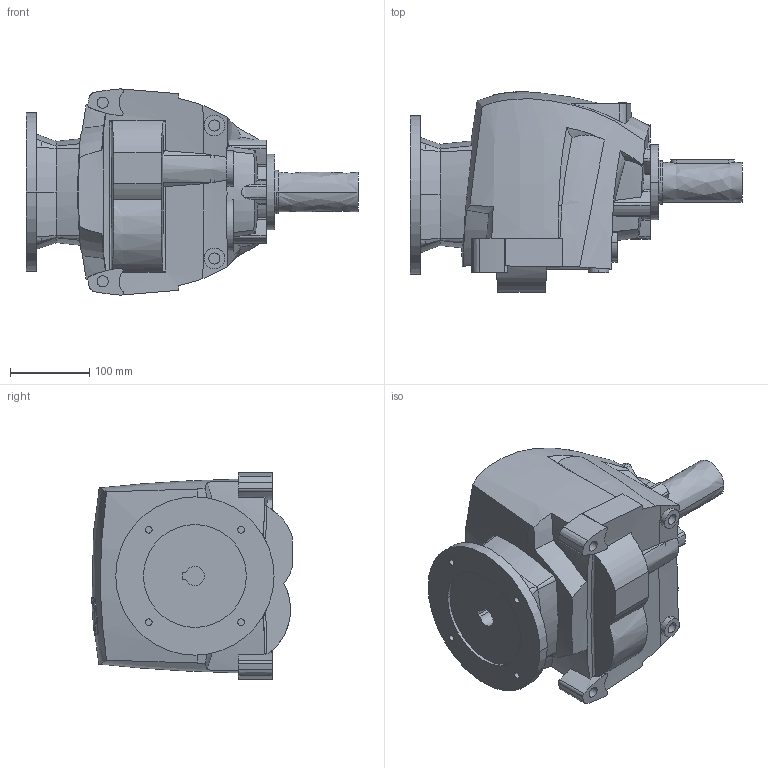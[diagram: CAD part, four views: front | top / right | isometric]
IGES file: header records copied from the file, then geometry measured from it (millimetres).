
Start section:  PTC IGES file: r40_unv_pam90_d2.igs
Global section: file name: r40_unv_pam90_d2.igs; native system: Pro/ENGINEER by Parametric Technology Corporation; preprocessor: 2008230; author: Luca; organization: Unknown; date: 20131127.002700; units: millimetre
Bounding box: 419.5 x 253.38 x 260.56 mm (x, y, z)
Volume: 11264325.8 mm3; surface area: 382836.2 mm2
Topology: 1 solids, 1 shells, 427 faces, 1176 edges, 788 vertices
Faces by surface type: bspline 208, revolution 182, extrusion 37
